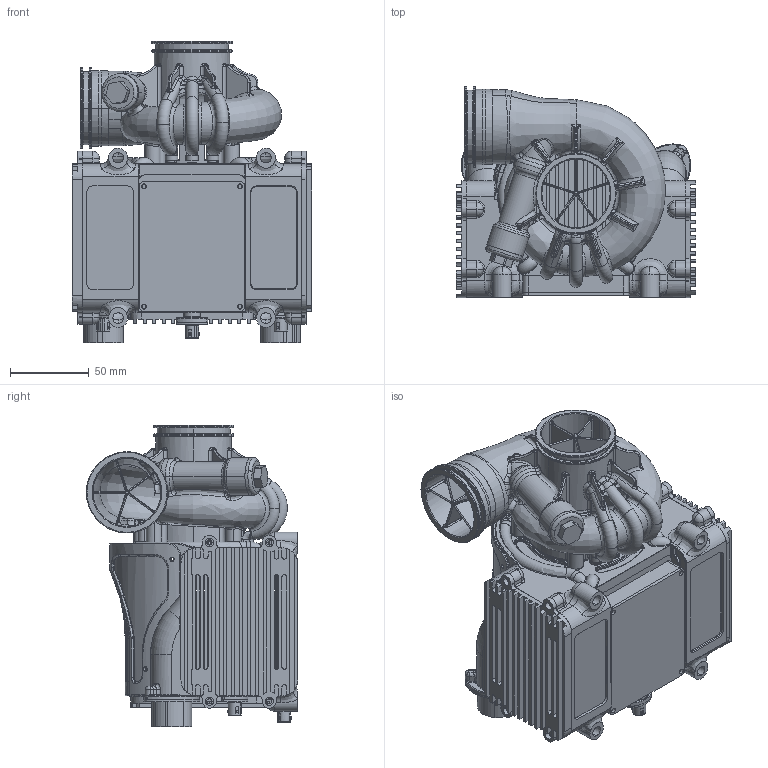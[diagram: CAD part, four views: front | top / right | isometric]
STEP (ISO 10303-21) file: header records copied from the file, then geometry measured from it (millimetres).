
FILE_DESCRIPTION (( 'STEP AP214' ), '1' );
FILE_NAME ('Z-P 2200 2000.STEP', '2024-06-12T07:42:20', ( '' ), ( '' ), 'SwSTEP 2.0', 'SolidWorks 2022', '' );
FILE_SCHEMA (( 'AUTOMOTIVE_DESIGN' ));
Length unit declared in the file: millimetre
Products named in the file (1): Z-P 2200 2000
Bounding box: 152 x 134.37 x 191.71 mm (x, y, z)
Surface area: 193175.1 mm2 (no closed solid volume)
Topology: 0 solids, 28 shells, 2696 faces, 7914 edges, 5009 vertices
Faces by surface type: cylinder 1016, bspline 613, plane 538, torus 452, cone 40, sphere 37
Entity records: 199067 total; most frequent: CARTESIAN_POINT 131923, DIRECTION 13811, ORIENTED_EDGE 13807, EDGE_CURVE 7819, AXIS2_PLACEMENT_3D 5679, VERTEX_POINT 4997, CIRCLE 3595, EDGE_LOOP 2867
